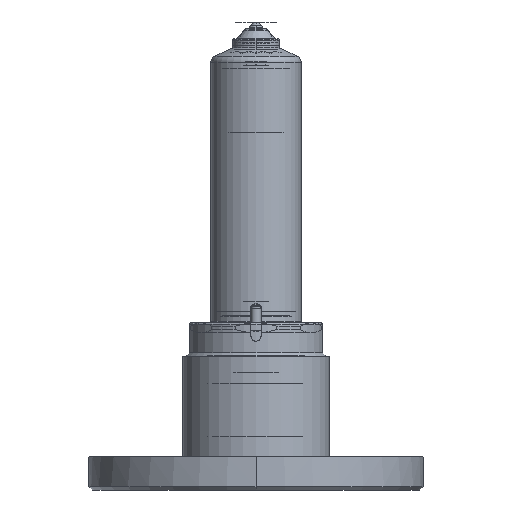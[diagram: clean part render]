
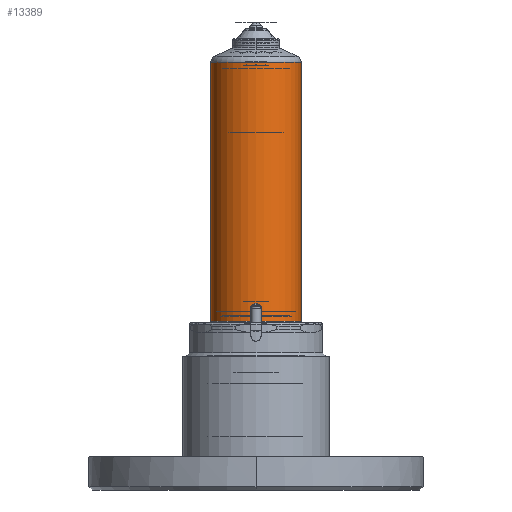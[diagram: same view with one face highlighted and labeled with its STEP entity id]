
A CAD part, front view. The second image highlights one B-rep face of the part: STEP entity #13389.
In plain terms, the highlighted cylindrical face has radius 13.5 mm (diameter 27 mm), a partial arc.
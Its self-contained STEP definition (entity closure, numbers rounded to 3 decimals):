
#50 = DIRECTION ( 'NONE',  ( 1., 0., 0. ) ) ;
#1051 = VERTEX_POINT ( 'NONE', #8014 ) ;
#1610 = VERTEX_POINT ( 'NONE', #18761 ) ;
#2626 = EDGE_LOOP ( 'NONE', ( #19139, #7703, #5902, #21629 ) ) ;
#5195 = LINE ( 'NONE', #12094, #17261 ) ;
#5263 = DIRECTION ( 'NONE',  ( 0., 0., 1. ) ) ;
#5654 = DIRECTION ( 'NONE',  ( 0., 0., -1. ) ) ;
#5902 = ORIENTED_EDGE ( 'NONE', *, *, #20068, .T. ) ;
#7190 = CYLINDRICAL_SURFACE ( 'NONE', #21482, 13.5 ) ;
#7703 = ORIENTED_EDGE ( 'NONE', *, *, #9003, .T. ) ;
#8014 = CARTESIAN_POINT ( 'NONE',  ( -13.5, 0., 40.5 ) ) ;
#8596 = CARTESIAN_POINT ( 'NONE',  ( 0., 0., 40.5 ) ) ;
#9003 = EDGE_CURVE ( 'NONE', #1051, #1610, #18083, .T. ) ;
#9693 = EDGE_CURVE ( 'NONE', #1051, #11456, #5195, .T. ) ;
#10054 = VERTEX_POINT ( 'NONE', #11177 ) ;
#10631 = DIRECTION ( 'NONE',  ( 1., 0., 0. ) ) ;
#11177 = CARTESIAN_POINT ( 'NONE',  ( 13.5, 0., 117.995 ) ) ;
#11257 = AXIS2_PLACEMENT_3D ( 'NONE', #19293, #5654, #10631 ) ;
#11306 = CARTESIAN_POINT ( 'NONE',  ( -13.5, 0., 117.995 ) ) ;
#11456 = VERTEX_POINT ( 'NONE', #11306 ) ;
#12094 = CARTESIAN_POINT ( 'NONE',  ( -13.5, 0., 47.584 ) ) ;
#12324 = DIRECTION ( 'NONE',  ( 0., 0., 1. ) ) ;
#12575 = CARTESIAN_POINT ( 'NONE',  ( 0., 0., 47.584 ) ) ;
#13389 = ADVANCED_FACE ( 'NONE', ( #16063 ), #7190, .T. ) ;
#14086 = DIRECTION ( 'NONE',  ( 0., 0., 1. ) ) ;
#14217 = LINE ( 'NONE', #20910, #20912 ) ;
#14330 = EDGE_CURVE ( 'NONE', #10054, #11456, #16016, .T. ) ;
#15963 = DIRECTION ( 'NONE',  ( 1., 0., 0. ) ) ;
#16016 = CIRCLE ( 'NONE', #11257, 13.5 ) ;
#16063 = FACE_OUTER_BOUND ( 'NONE', #2626, .T. ) ;
#17261 = VECTOR ( 'NONE', #12324, 1000. ) ;
#18083 = CIRCLE ( 'NONE', #19713, 13.5 ) ;
#18761 = CARTESIAN_POINT ( 'NONE',  ( 13.5, 0., 40.5 ) ) ;
#19139 = ORIENTED_EDGE ( 'NONE', *, *, #9693, .F. ) ;
#19293 = CARTESIAN_POINT ( 'NONE',  ( 0., 0., 117.995 ) ) ;
#19713 = AXIS2_PLACEMENT_3D ( 'NONE', #8596, #5263, #50 ) ;
#20068 = EDGE_CURVE ( 'NONE', #1610, #10054, #14217, .T. ) ;
#20910 = CARTESIAN_POINT ( 'NONE',  ( 13.5, 0., 47.584 ) ) ;
#20912 = VECTOR ( 'NONE', #14086, 1000. ) ;
#21053 = DIRECTION ( 'NONE',  ( 0., 0., 1. ) ) ;
#21482 = AXIS2_PLACEMENT_3D ( 'NONE', #12575, #21053, #15963 ) ;
#21629 = ORIENTED_EDGE ( 'NONE', *, *, #14330, .T. ) ;
